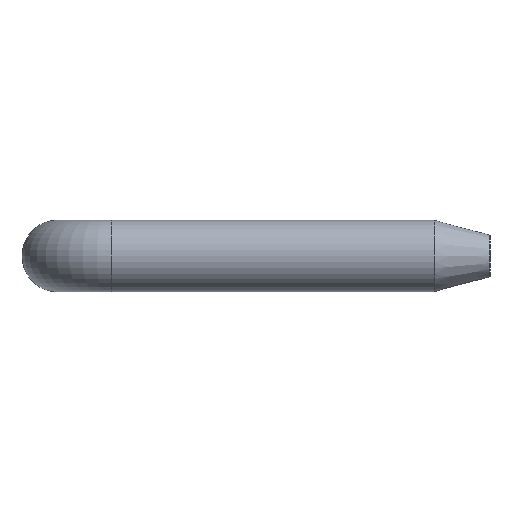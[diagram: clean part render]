
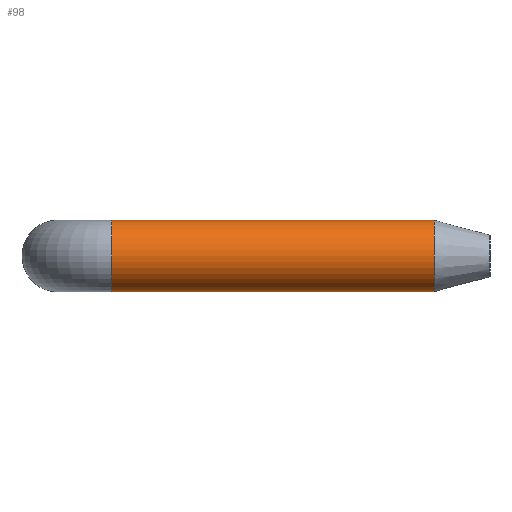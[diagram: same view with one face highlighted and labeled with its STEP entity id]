
A CAD part, left-side view. The second image highlights one B-rep face of the part: STEP entity #98.
In plain terms, the highlighted cylindrical face has radius 0.508 mm (diameter 1.016 mm), a full revolution.
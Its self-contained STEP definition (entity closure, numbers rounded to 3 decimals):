
#18=CYLINDRICAL_SURFACE($,#115,0.508);
#23=FACE_BOUND($,#44,.T.);
#31=FACE_OUTER_BOUND($,#43,.T.);
#43=EDGE_LOOP($,(#83));
#44=EDGE_LOOP($,(#84));
#55=CIRCLE($,#113,0.508);
#57=CIRCLE($,#116,0.508);
#63=VERTEX_POINT($,#170);
#65=VERTEX_POINT($,#175);
#71=EDGE_CURVE($,#63,#63,#55,.T.);
#73=EDGE_CURVE($,#65,#65,#57,.T.);
#83=ORIENTED_EDGE($,*,*,#73,.T.);
#84=ORIENTED_EDGE($,*,*,#71,.F.);
#98=ADVANCED_FACE($,(#31,#23),#18,.T.);
#113=AXIS2_PLACEMENT_3D($,#171,#139,#140);
#115=AXIS2_PLACEMENT_3D($,#174,#143,#144);
#116=AXIS2_PLACEMENT_3D($,#176,#145,#146);
#139=DIRECTION('center_axis',(0.,-1.,0.));
#140=DIRECTION('ref_axis',(1.,0.,0.));
#143=DIRECTION('center_axis',(0.,1.,0.));
#144=DIRECTION('ref_axis',(1.,0.,0.));
#145=DIRECTION('center_axis',(0.,-1.,0.));
#146=DIRECTION('ref_axis',(1.,0.,0.));
#170=CARTESIAN_POINT('',(-5.588,-5.334,0.));
#171=CARTESIAN_POINT('Origin',(-5.08,-5.334,0.));
#174=CARTESIAN_POINT('Origin',(-5.08,-6.121,0.));
#175=CARTESIAN_POINT('',(-5.588,-0.762,0.));
#176=CARTESIAN_POINT('Origin',(-5.08,-0.762,0.));
